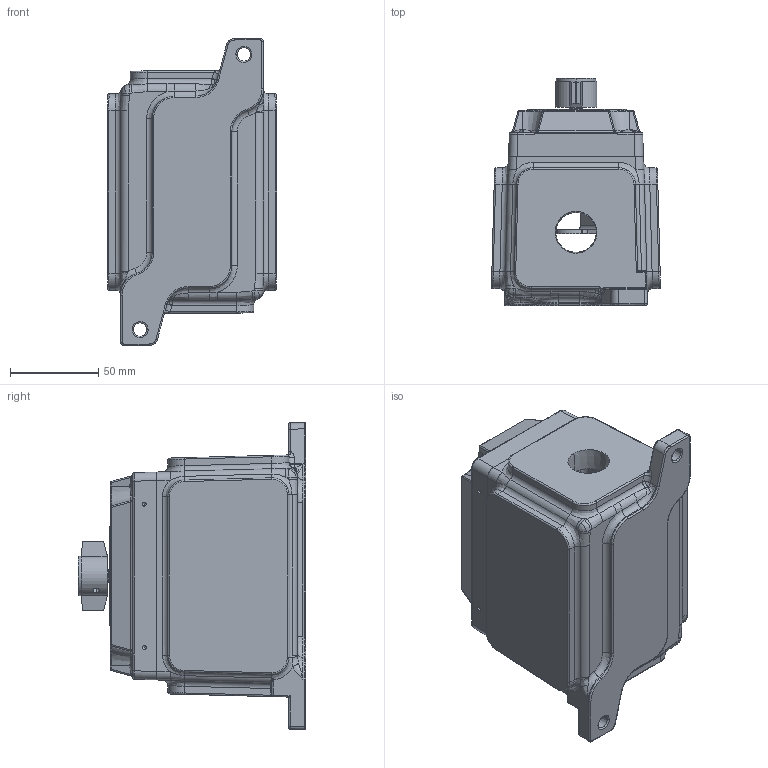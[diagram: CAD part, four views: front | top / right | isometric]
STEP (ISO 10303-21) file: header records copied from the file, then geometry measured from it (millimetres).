
FILE_DESCRIPTION (( 'STEP AP214' ), '1' );
FILE_NAME ('EXP-PTM.2K-2W.STEP', '2022-11-15T21:16:05', ( '' ), ( '' ), 'SwSTEP 2.0', 'SolidWorks 2020', '' );
FILE_SCHEMA (( 'AUTOMOTIVE_DESIGN' ));
Length unit declared in the file: inch
Products named in the file (17): EXP-PTM.2K-2W; SWB-45; 17790AAAB_ETO; 0560795B; 0522890B_ETO; SEALING LOCKNUT GASKET-; SOCKET HEAD SCREW_ETO; X-10_X-60; oval head_ai_SL-OHMS 0.25-20x0.75x0.75-N; 0703640B_ETO; 0682439B_ETO; ANSI B18.6.3 - 6 - 32 x 1 1_4 SP HMS; 17792AAAB_ETO; GO133; 18170AAAB-N_ETO; 0439610B_ETO; STAR WASHER
Assembly tree (23 placements, depth 3):
  EXP-PTM.2K-2W
    SWB-45
    X-10_X-60
    GO133
      18170AAAB-N_ETO
      0560795B
      SEALING LOCKNUT GASKET-
      17790AAAB_ETO
      17792AAAB_ETO
      0682439B_ETO  x2
      0439610B_ETO
      0522890B_ETO
      0703640B_ETO
      STAR WASHER  x2
      ANSI B18.6.3 - 6 - 32 x 1 1_4 SP HMS  x2
      SOCKET HEAD SCREW_ETO  x2
    oval head_ai_SL-OHMS 0.25-20x0.75x0.75-N  x4
Bounding box: 95.61 x 128.43 x 173.49 mm (x, y, z)
Volume: 606786.8 mm3; surface area: 151816.7 mm2
Topology: 22 solids, 22 shells, 1172 faces, 2932 edges, 1741 vertices
Faces by surface type: cylinder 412, plane 323, bspline 296, cone 121, sphere 16, torus 4
Entity records: 55049 total; most frequent: CARTESIAN_POINT 21663, ORIENTED_EDGE 5030, DIRECTION 4013, EDGE_CURVE 2515, VERTEX_POINT 1528, AXIS2_PLACEMENT_3D 1497, EDGE_LOOP 1123, FACE_OUTER_BOUND 1043
